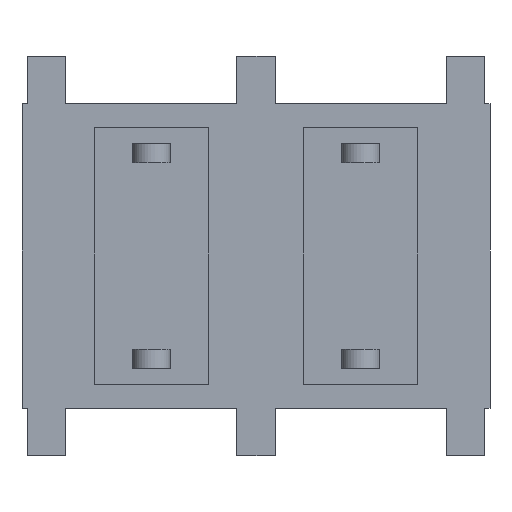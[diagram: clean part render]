
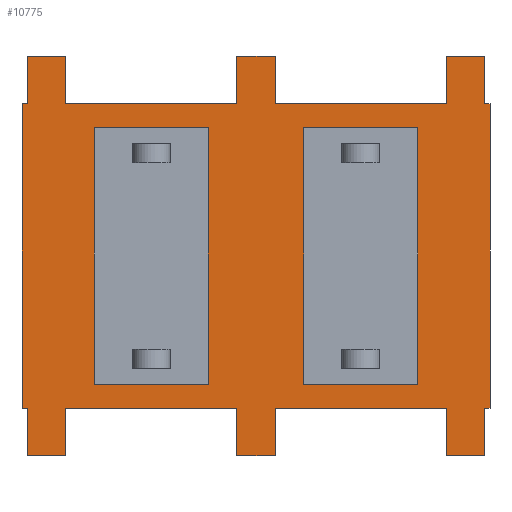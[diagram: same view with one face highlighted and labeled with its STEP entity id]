
A CAD part, front view. The second image highlights one B-rep face of the part: STEP entity #10775.
In plain terms, the highlighted planar face has unit normal (0, -1, 0).
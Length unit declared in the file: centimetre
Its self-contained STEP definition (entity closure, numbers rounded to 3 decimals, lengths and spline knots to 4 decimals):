
#723=VECTOR('',#11782,1.);
#725=VECTOR('',#11785,1.);
#727=VECTOR('',#11788,1.);
#729=VECTOR('',#11791,1.);
#736=VECTOR('',#11802,1.);
#749=VECTOR('',#11820,1.);
#756=VECTOR('',#11830,1.);
#758=VECTOR('',#11833,1.);
#765=VECTOR('',#11841,1.);
#779=VECTOR('',#11863,1.);
#781=VECTOR('',#11866,1.);
#799=VECTOR('',#11904,1.);
#803=VECTOR('',#11913,1.);
#809=VECTOR('',#11922,1.);
#823=VECTOR('',#11941,1.);
#832=VECTOR('',#11963,1.);
#840=VECTOR('',#11981,1.);
#900=VECTOR('',#12157,1.);
#902=VECTOR('',#12160,1.);
#904=VECTOR('',#12163,1.);
#906=VECTOR('',#12166,1.);
#928=VECTOR('',#12193,1.);
#938=VECTOR('',#12208,1.);
#946=VECTOR('',#12219,1.);
#956=VECTOR('',#12232,1.);
#973=VECTOR('',#12267,1.);
#981=VECTOR('',#12285,1.);
#1367=VECTOR('',#12799,1.);
#1376=VECTOR('',#12809,1.);
#1382=VECTOR('',#12821,1.);
#1986=LINE('',#13908,#723);
#1988=LINE('',#13912,#725);
#1990=LINE('',#13916,#727);
#1992=LINE('',#13920,#729);
#1999=LINE('',#13935,#736);
#2012=LINE('',#13960,#749);
#2019=LINE('',#13976,#756);
#2021=LINE('',#13981,#758);
#2028=LINE('',#13995,#765);
#2042=LINE('',#14026,#779);
#2044=LINE('',#14031,#781);
#2062=LINE('',#14078,#799);
#2066=LINE('',#14085,#803);
#2072=LINE('',#14099,#809);
#2086=LINE('',#14133,#823);
#2095=LINE('',#14160,#832);
#2103=LINE('',#14176,#840);
#2163=LINE('',#14426,#900);
#2165=LINE('',#14430,#902);
#2167=LINE('',#14434,#904);
#2169=LINE('',#14438,#906);
#2191=LINE('',#14483,#928);
#2201=LINE('',#14503,#938);
#2209=LINE('',#14521,#946);
#2219=LINE('',#14545,#956);
#2236=LINE('',#14591,#973);
#2244=LINE('',#14607,#981);
#2630=LINE('',#16071,#1367);
#2639=LINE('',#16089,#1376);
#2645=LINE('',#16101,#1382);
#3244=VERTEX_POINT('',#13907);
#3245=VERTEX_POINT('',#13909);
#3246=VERTEX_POINT('',#13913);
#3247=VERTEX_POINT('',#13917);
#3249=VERTEX_POINT('',#13930);
#3251=VERTEX_POINT('',#13934);
#3258=VERTEX_POINT('',#13959);
#3259=VERTEX_POINT('',#13961);
#3265=VERTEX_POINT('',#13975);
#3266=VERTEX_POINT('',#13979);
#3268=VERTEX_POINT('',#13982);
#3274=VERTEX_POINT('',#13996);
#3283=VERTEX_POINT('',#14025);
#3285=VERTEX_POINT('',#14030);
#3300=VERTEX_POINT('',#14075);
#3301=VERTEX_POINT('',#14077);
#3307=VERTEX_POINT('',#14098);
#3308=VERTEX_POINT('',#14100);
#3315=VERTEX_POINT('',#14114);
#3324=VERTEX_POINT('',#14132);
#3327=VERTEX_POINT('',#14143);
#3329=VERTEX_POINT('',#14145);
#3416=VERTEX_POINT('',#14425);
#3417=VERTEX_POINT('',#14427);
#3418=VERTEX_POINT('',#14431);
#3419=VERTEX_POINT('',#14435);
#3437=VERTEX_POINT('',#14482);
#3443=VERTEX_POINT('',#14504);
#3450=VERTEX_POINT('',#14520);
#3452=VERTEX_POINT('',#14524);
#3462=VERTEX_POINT('',#14544);
#3463=VERTEX_POINT('',#14546);
#3478=VERTEX_POINT('',#14582);
#3479=VERTEX_POINT('',#14583);
#3808=VERTEX_POINT('',#16072);
#3809=VERTEX_POINT('',#16073);
#4414=EDGE_CURVE('',#3245,#3244,#1986,.T.);
#4416=EDGE_CURVE('',#3246,#3245,#1988,.T.);
#4418=EDGE_CURVE('',#3247,#3246,#1990,.T.);
#4420=EDGE_CURVE('',#3244,#3247,#1992,.T.);
#4427=EDGE_CURVE('',#3251,#3249,#1999,.T.);
#4440=EDGE_CURVE('',#3259,#3258,#2012,.T.);
#4448=EDGE_CURVE('',#3258,#3265,#2019,.T.);
#4450=EDGE_CURVE('',#3268,#3266,#2021,.T.);
#4457=EDGE_CURVE('',#3274,#3268,#2028,.T.);
#4473=EDGE_CURVE('',#3283,#3266,#2042,.T.);
#4475=EDGE_CURVE('',#3265,#3285,#2044,.T.);
#4500=EDGE_CURVE('',#3301,#3300,#2062,.T.);
#4501=EDGE_CURVE('',#3301,#3249,#2019,.T.);
#4505=EDGE_CURVE('',#3285,#3274,#2066,.T.);
#4506=EDGE_CURVE('',#3283,#3300,#2066,.T.);
#4513=EDGE_CURVE('',#3251,#3307,#2072,.T.);
#4514=EDGE_CURVE('',#3308,#3259,#2072,.T.);
#4531=EDGE_CURVE('',#3315,#3324,#2086,.T.);
#4537=EDGE_CURVE('',#3329,#3327,#2086,.T.);
#4547=EDGE_CURVE('',#3329,#3307,#2095,.T.);
#4555=EDGE_CURVE('',#3324,#3308,#2103,.T.);
#4657=EDGE_CURVE('',#3417,#3416,#2163,.T.);
#4659=EDGE_CURVE('',#3418,#3417,#2165,.T.);
#4661=EDGE_CURVE('',#3419,#3418,#2167,.T.);
#4663=EDGE_CURVE('',#3416,#3419,#2169,.T.);
#4687=EDGE_CURVE('',#3437,#3327,#2191,.T.);
#4697=EDGE_CURVE('',#3443,#3315,#2201,.T.);
#4706=EDGE_CURVE('',#3437,#3450,#2209,.T.);
#4708=EDGE_CURVE('',#3452,#3443,#2209,.T.);
#4719=EDGE_CURVE('',#3463,#3462,#2219,.T.);
#4740=EDGE_CURVE('',#3479,#3478,#2219,.T.);
#4745=EDGE_CURVE('',#3463,#3450,#2236,.T.);
#4753=EDGE_CURVE('',#3478,#3452,#2244,.T.);
#5243=EDGE_CURVE('',#3808,#3809,#2630,.T.);
#5252=EDGE_CURVE('',#3808,#3462,#2639,.T.);
#5258=EDGE_CURVE('',#3809,#3479,#2645,.T.);
#7855=ORIENTED_EDGE('',*,*,#4414,.T.);
#7856=ORIENTED_EDGE('',*,*,#4420,.T.);
#7857=ORIENTED_EDGE('',*,*,#4418,.T.);
#7858=ORIENTED_EDGE('',*,*,#4416,.T.);
#7859=ORIENTED_EDGE('',*,*,#4657,.T.);
#7860=ORIENTED_EDGE('',*,*,#4663,.T.);
#7861=ORIENTED_EDGE('',*,*,#4661,.T.);
#7862=ORIENTED_EDGE('',*,*,#4659,.T.);
#7863=ORIENTED_EDGE('',*,*,#5258,.T.);
#7864=ORIENTED_EDGE('',*,*,#4740,.T.);
#7865=ORIENTED_EDGE('',*,*,#4753,.T.);
#7866=ORIENTED_EDGE('',*,*,#4708,.T.);
#7867=ORIENTED_EDGE('',*,*,#4697,.T.);
#7868=ORIENTED_EDGE('',*,*,#4531,.T.);
#7869=ORIENTED_EDGE('',*,*,#4555,.T.);
#7870=ORIENTED_EDGE('',*,*,#4514,.T.);
#7871=ORIENTED_EDGE('',*,*,#4440,.T.);
#7872=ORIENTED_EDGE('',*,*,#4448,.T.);
#7873=ORIENTED_EDGE('',*,*,#4475,.T.);
#7874=ORIENTED_EDGE('',*,*,#4505,.T.);
#7875=ORIENTED_EDGE('',*,*,#4457,.T.);
#7876=ORIENTED_EDGE('',*,*,#4450,.T.);
#7877=ORIENTED_EDGE('',*,*,#4473,.F.);
#7878=ORIENTED_EDGE('',*,*,#4506,.T.);
#7879=ORIENTED_EDGE('',*,*,#4500,.F.);
#7880=ORIENTED_EDGE('',*,*,#4501,.T.);
#7881=ORIENTED_EDGE('',*,*,#4427,.F.);
#7882=ORIENTED_EDGE('',*,*,#4513,.T.);
#7883=ORIENTED_EDGE('',*,*,#4547,.F.);
#7884=ORIENTED_EDGE('',*,*,#4537,.T.);
#7885=ORIENTED_EDGE('',*,*,#4687,.F.);
#7886=ORIENTED_EDGE('',*,*,#4706,.T.);
#7887=ORIENTED_EDGE('',*,*,#4745,.F.);
#7888=ORIENTED_EDGE('',*,*,#4719,.T.);
#7889=ORIENTED_EDGE('',*,*,#5252,.F.);
#7890=ORIENTED_EDGE('',*,*,#5243,.T.);
#9486=EDGE_LOOP('',(#7855,#7856,#7857,#7858));
#9487=EDGE_LOOP('',(#7859,#7860,#7861,#7862));
#9488=EDGE_LOOP('',(#7863,#7864,#7865,#7866,#7867,#7868,#7869,#7870,#7871,
#7872,#7873,#7874,#7875,#7876,#7877,#7878,#7879,#7880,#7881,#7882,#7883,
#7884,#7885,#7886,#7887,#7888,#7889,#7890));
#10152=FACE_BOUND('',#9486,.T.);
#10153=FACE_BOUND('',#9487,.T.);
#10154=FACE_BOUND('',#9488,.T.);
#10775=ADVANCED_FACE('',(#10152,#10153,#10154),#11279,.T.);
#11279=PLANE('',#18127);
#11782=DIRECTION('',(-1.,0.,0.));
#11785=DIRECTION('',(0.,0.,-1.));
#11788=DIRECTION('',(1.,0.,0.));
#11791=DIRECTION('',(0.,0.,1.));
#11802=DIRECTION('',(1.,0.,0.));
#11820=DIRECTION('',(1.,0.,0.));
#11830=DIRECTION('',(0.,0.,-1.));
#11833=DIRECTION('',(0.,0.,1.));
#11841=DIRECTION('',(1.,0.,0.));
#11863=DIRECTION('',(1.,0.,0.));
#11866=DIRECTION('',(1.,0.,0.));
#11904=DIRECTION('',(1.,0.,0.));
#11913=DIRECTION('',(0.,0.,1.));
#11922=DIRECTION('',(0.,0.,1.));
#11941=DIRECTION('',(0.,0.,-1.));
#11963=DIRECTION('',(1.,0.,0.));
#11981=DIRECTION('',(1.,0.,0.));
#12157=DIRECTION('',(-1.,0.,0.));
#12160=DIRECTION('',(0.,0.,-1.));
#12163=DIRECTION('',(1.,0.,0.));
#12166=DIRECTION('',(0.,0.,1.));
#12193=DIRECTION('',(1.,0.,0.));
#12208=DIRECTION('',(1.,0.,0.));
#12219=DIRECTION('',(0.,0.,1.));
#12232=DIRECTION('',(0.,0.,-1.));
#12267=DIRECTION('',(1.,0.,0.));
#12285=DIRECTION('',(1.,0.,0.));
#12799=DIRECTION('',(0.,0.,-1.));
#12809=DIRECTION('',(1.,0.,0.));
#12821=DIRECTION('',(1.,0.,0.));
#12822=DIRECTION('',(0.,-1.,0.));
#13907=CARTESIAN_POINT('',(1.48,0.,-0.675));
#13908=CARTESIAN_POINT('',(1.555,0.,-0.675));
#13909=CARTESIAN_POINT('',(2.08,0.,-0.675));
#13912=CARTESIAN_POINT('',(2.08,0.,0.));
#13913=CARTESIAN_POINT('',(2.08,0.,0.675));
#13916=CARTESIAN_POINT('',(1.555,0.,0.675));
#13917=CARTESIAN_POINT('',(1.48,0.,0.675));
#13920=CARTESIAN_POINT('',(1.48,0.,0.));
#13930=CARTESIAN_POINT('',(2.23,0.,0.8));
#13934=CARTESIAN_POINT('',(1.33,0.,0.8));
#13935=CARTESIAN_POINT('',(1.33,0.,0.8));
#13959=CARTESIAN_POINT('',(2.23,0.,-0.8));
#13960=CARTESIAN_POINT('',(1.33,0.,-0.8));
#13961=CARTESIAN_POINT('',(1.33,0.,-0.8));
#13975=CARTESIAN_POINT('',(2.23,0.,-1.05));
#13976=CARTESIAN_POINT('',(2.23,0.,1.05));
#13979=CARTESIAN_POINT('',(2.46,0.,0.8));
#13981=CARTESIAN_POINT('',(2.46,0.,0.8));
#13982=CARTESIAN_POINT('',(2.46,0.,-0.8));
#13995=CARTESIAN_POINT('',(2.43,0.,-0.8));
#13996=CARTESIAN_POINT('',(2.43,0.,-0.8));
#14025=CARTESIAN_POINT('',(2.43,0.,0.8));
#14026=CARTESIAN_POINT('',(2.43,0.,0.8));
#14030=CARTESIAN_POINT('',(2.43,0.,-1.05));
#14031=CARTESIAN_POINT('',(2.23,0.,-1.05));
#14075=CARTESIAN_POINT('',(2.43,0.,1.05));
#14077=CARTESIAN_POINT('',(2.23,0.,1.05));
#14078=CARTESIAN_POINT('',(2.23,0.,1.05));
#14085=CARTESIAN_POINT('',(2.43,0.,1.05));
#14098=CARTESIAN_POINT('',(1.33,0.,1.05));
#14099=CARTESIAN_POINT('',(1.33,0.,1.05));
#14100=CARTESIAN_POINT('',(1.33,0.,-1.05));
#14114=CARTESIAN_POINT('',(1.13,0.,-0.8));
#14132=CARTESIAN_POINT('',(1.13,0.,-1.05));
#14133=CARTESIAN_POINT('',(1.13,0.,1.05));
#14143=CARTESIAN_POINT('',(1.13,0.,0.8));
#14145=CARTESIAN_POINT('',(1.13,0.,1.05));
#14160=CARTESIAN_POINT('',(1.13,0.,1.05));
#14176=CARTESIAN_POINT('',(1.13,0.,-1.05));
#14425=CARTESIAN_POINT('',(0.38,0.,-0.675));
#14426=CARTESIAN_POINT('',(0.455,0.,-0.675));
#14427=CARTESIAN_POINT('',(0.98,0.,-0.675));
#14430=CARTESIAN_POINT('',(0.98,0.,0.));
#14431=CARTESIAN_POINT('',(0.98,0.,0.675));
#14434=CARTESIAN_POINT('',(0.455,0.,0.675));
#14435=CARTESIAN_POINT('',(0.38,0.,0.675));
#14438=CARTESIAN_POINT('',(0.38,0.,0.));
#14482=CARTESIAN_POINT('',(0.23,0.,0.8));
#14483=CARTESIAN_POINT('',(0.23,0.,0.8));
#14503=CARTESIAN_POINT('',(0.23,0.,-0.8));
#14504=CARTESIAN_POINT('',(0.23,0.,-0.8));
#14520=CARTESIAN_POINT('',(0.23,0.,1.05));
#14521=CARTESIAN_POINT('',(0.23,0.,1.05));
#14524=CARTESIAN_POINT('',(0.23,0.,-1.05));
#14544=CARTESIAN_POINT('',(0.03,0.,0.8));
#14545=CARTESIAN_POINT('',(0.03,0.,1.05));
#14546=CARTESIAN_POINT('',(0.03,0.,1.05));
#14582=CARTESIAN_POINT('',(0.03,0.,-1.05));
#14583=CARTESIAN_POINT('',(0.03,0.,-0.8));
#14591=CARTESIAN_POINT('',(0.03,0.,1.05));
#14607=CARTESIAN_POINT('',(0.03,0.,-1.05));
#16071=CARTESIAN_POINT('',(0.,0.,0.8));
#16072=CARTESIAN_POINT('',(0.,0.,0.8));
#16073=CARTESIAN_POINT('',(0.,0.,-0.8));
#16089=CARTESIAN_POINT('',(0.,0.,0.8));
#16101=CARTESIAN_POINT('',(0.,0.,-0.8));
#16102=CARTESIAN_POINT('',(0.,0.,0.));
#18127=AXIS2_PLACEMENT_3D('',#16102,#12822,$);
